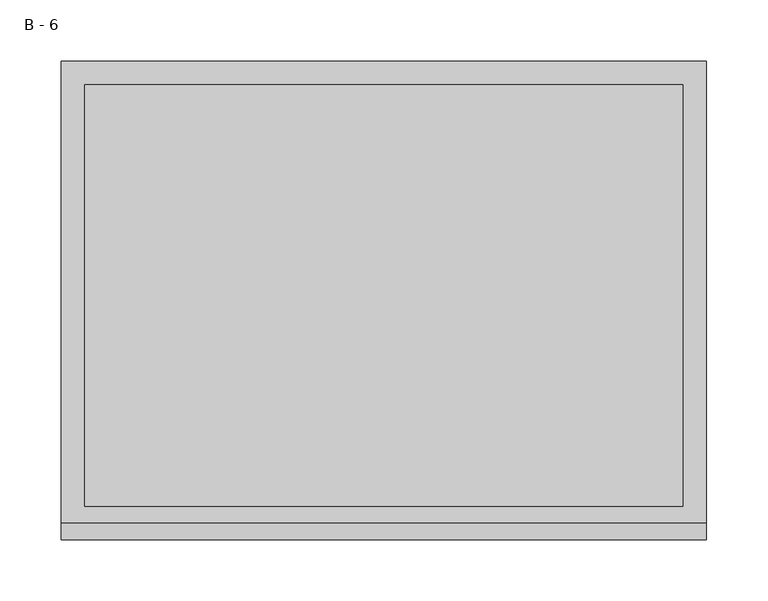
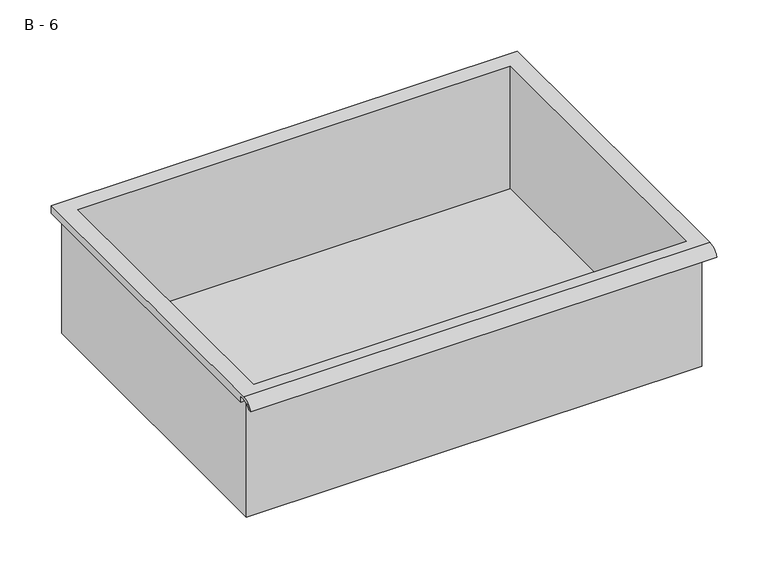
"""IFC4 building model written with IfcOpenShell, lengths in millimetres: furniture geometry, HermanMiller_CoStruc_CO207_Drawer : B - 6."""

from ifc_helpers import new_model, si_unit, frame, origin, place, context, project, spatial, polyline, circle_curve, source, transform, mapped, element, save
from ifc_brep_helpers import plane_surface, cylinder_surface, revolved_surface, advanced_brep


def b_6_5c18262e(model_context):
    return source(origin(), model_context, "Body", "AdvancedBrep", [
        advanced_brep(
        [(-257.1076517, -176.2125, 803.275), (257.2423483, -176.2125, 803.275), (257.2423483, -176.2125, 942.975), (263.5923483, -176.2125, 942.975), (263.5923483, -176.2125, 949.2821341), (-263.4576517, -176.2125, 949.2821341), (-263.4576517, -176.2125, 942.975), (-257.1076517, -176.2125, 942.975), (257.2423483, 185.7375, 803.275), (-257.1076517, 185.7375, 803.275), (-257.1076517, 185.7375, 942.975), (257.2423483, 185.7375, 942.975), (263.5923483, -181.6070544, 952.5), (263.5923483, 195.2625, 952.5), (-263.4576517, 195.2625, 952.5), (-263.4576517, -181.6070544, 952.5), (244.5423483, -168.275, 952.5), (-244.4076517, -168.275, 952.5), (-244.4076517, 176.2125, 952.5), (244.5423483, 176.2125, 952.5), (263.5923483, -195.2625, 942.975), (263.5923483, -191.8280601, 942.975), (263.5923483, -180.4714815, 949.2821341), (263.5923483, 195.2625, 942.975), (-263.4576517, 195.2625, 942.975), (-263.4576517, -180.4714815, 949.2821341), (-263.4576517, -191.8280601, 942.975), (-263.4576517, -195.2625, 942.975), (-244.4076517, -168.275, 806.3011719), (244.5423483, -168.275, 806.3011719), (244.5423483, 176.2125, 806.3011719), (-244.4076517, 176.2125, 806.3011719)],
        [
            (0, 1),
            (1, 2),
            (2, 3),
            (3, 4),
            (4, 5),
            (5, 6),
            (6, 7),
            (7, 0),
            (8, 9),
            (9, 10),
            (10, 11),
            (11, 8),
            (0, 9),
            (8, 1),
            (11, 2),
            (12, 13),
            (13, 14),
            (14, 15),
            (15, 12),
            (16, 17),
            (17, 18),
            (18, 19),
            (19, 16),
            (7, 10),
            (12, 20, circle_curve(frame((263.5923483, -181.6070544, 937.9489859), z_axis=(1.0, 0.0, 0.0), x_axis=(0.0, 1.0, 0.0)), 14.5510141)),
            (20, 21),
            (21, 22, circle_curve(frame((263.5923483, -181.6070544, 937.9489859), z_axis=(-1.0, 0.0, 0.0), x_axis=(0.0, 1.0, 0.0)), 11.3898979)),
            (22, 4),
            (3, 23),
            (23, 13),
            (14, 24),
            (24, 6),
            (5, 25),
            (25, 26, circle_curve(frame((-263.4576517, -181.6070544, 937.9489859), z_axis=(1.0, 0.0, 0.0), x_axis=(0.0, 1.0, 0.0)), 11.3898979)),
            (26, 27),
            (27, 15, circle_curve(frame((-263.4576517, -181.6070544, 937.9489859), z_axis=(-1.0, 0.0, 0.0), x_axis=(0.0, 1.0, 0.0)), 14.5510141)),
            (27, 20),
            (26, 21),
            (25, 22),
            (24, 23),
            (28, 29),
            (29, 30),
            (30, 31),
            (31, 28),
            (28, 17),
            (16, 29),
            (19, 30),
            (18, 31),
        ],
        [
            plane_surface(frame((257.2423483, -176.2125, 803.275), z_axis=(0.0, -1.0, 0.0), x_axis=(1.0, 0.0, 0.0))),
            plane_surface(frame((257.2423483, 185.7375, 803.275), z_axis=(0.0, 1.0, 0.0), x_axis=(-1.0, 0.0, 0.0))),
            plane_surface(frame((-257.1076517, -176.2125, 803.275), z_axis=(0.0, 0.0, -1.0), x_axis=(0.0, 1.0, 0.0))),
            plane_surface(frame((257.2423483, -176.2125, 803.275), z_axis=(1.0, 0.0, 0.0), x_axis=(0.0, 1.0, 0.0))),
            plane_surface(frame((257.2423483, -176.2125, 952.5), z_axis=(0.0, 0.0, 1.0), x_axis=(0.0, 1.0, 0.0))),
            plane_surface(frame((-257.1076517, -176.2125, 952.5), z_axis=(-1.0, 0.0, 0.0), x_axis=(0.0, 1.0, 0.0))),
            plane_surface(frame((263.5923483, 195.2625, 952.5), z_axis=(1.0, 0.0, 0.0), x_axis=(0.0, -1.0, 0.0))),
            plane_surface(frame((-263.4576517, 195.2625, 952.5), z_axis=(-1.0, 0.0, 0.0), x_axis=(0.0, 1.0, 0.0))),
            cylinder_surface(frame((-263.4576517, -181.6070544, 937.9489859), z_axis=(1.0, 0.0, 0.0), x_axis=(0.0, 1.0, 0.0)), 14.5510141),
            plane_surface(frame((263.5923483, -195.2625, 942.975), z_axis=(0.0, -7.330645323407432e-12, -1.0), x_axis=(-1.0, 0.0, 0.0))),
            revolved_surface(polyline([(-263.4576517, -170.21715650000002, 937.9489859), (263.59234829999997, -170.21715650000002, 937.9489859)]), (-263.4576517, -181.6070544, 937.9489859), (-1.0, 0.0, 0.0)),
            plane_surface(frame((263.5923483, -180.4714815, 949.2821341), z_axis=(0.0, -1.8115665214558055e-11, -1.0), x_axis=(-1.0, 0.0, 0.0))),
            plane_surface(frame((263.5923483, -176.2125, 942.975), z_axis=(0.0, 0.0, -1.0), x_axis=(-1.0, 0.0, 0.0))),
            plane_surface(frame((263.5923483, 195.2625, 942.975), z_axis=(0.0, 1.0, 0.0), x_axis=(-1.0, 0.0, 0.0))),
            plane_surface(frame((244.5423483, -168.275, 806.3011719), z_axis=(0.0, 0.0, 1.0), x_axis=(-1.0, 0.0, 0.0))),
            plane_surface(frame((-244.4076517, -168.275, 952.5), z_axis=(0.0, 1.0, 0.0), x_axis=(0.0, 0.0, -1.0))),
            plane_surface(frame((244.5423483, -168.275, 952.5), z_axis=(-1.0, 0.0, 0.0), x_axis=(0.0, 0.0, -1.0))),
            plane_surface(frame((244.5423483, 176.2125, 952.5), z_axis=(0.0, -1.0, 0.0), x_axis=(0.0, 0.0, -1.0))),
            plane_surface(frame((-244.4076517, 176.2125, 952.5), z_axis=(1.0, 0.0, 0.0), x_axis=(0.0, 0.0, -1.0))),
        ],
        [
            (0, [[1, 2, 3, 4, 5, 6, 7, 8]]),
            (1, [[9, 10, 11, 12]]),
            (2, [[-1, 13, -9, 14]]),
            (3, [[-14, -12, 15, -2]]),
            (4, [[16, 17, 18, 19], [20, 21, 22, 23]]),
            (5, [[-13, -8, 24, -10]]),
            (6, [[-16, 25, 26, 27, 28, -4, 29, 30]]),
            (7, [[31, 32, -6, 33, 34, 35, 36, -18]]),
            (8, [[-25, -19, -36, 37]]),
            (9, [[-26, -37, -35, 38]]),
            (10, [[-27, -38, -34, 39]]),
            (11, [[-28, -39, -33, -5]]),
            (12, [[-29, -3, -15, -11, -24, -7, -32, 40]]),
            (13, [[-30, -40, -31, -17]]),
            (14, [[41, 42, 43, 44]]),
            (15, [[-41, 45, -20, 46]]),
            (16, [[-42, -46, -23, 47]]),
            (17, [[-43, -47, -22, 48]]),
            (18, [[-44, -48, -21, -45]]),
        ],
    ),
    ])


if __name__ == "__main__":
    model = new_model("IFC4")
    model_context = context("Model", 3, world=origin())
    ifc_project = project(units=[si_unit("LENGTHUNIT", "METRE", prefix="MILLI")], contexts=[model_context])
    site = spatial("IfcSite", under=ifc_project)
    building = spatial("IfcBuilding", under=site)
    placement = place(None, origin())
    b_6_shape = b_6_5c18262e(model_context)
    element("IfcFurniture", 1, ObjectType="HermanMiller_CoStruc_CO207_Drawer : B - 6", at=placement, inside=building, context=model_context, shape_type="MappedRepresentation", body=[
        mapped(b_6_shape, transform((0.0, 0.0, 0.0), x_axis=(1.0, 0.0, 0.0), y_axis=(0.0, 1.0, 0.0), z_axis=(0.0, 0.0, 1.0))),
    ])
    save(model, "model.ifc")
